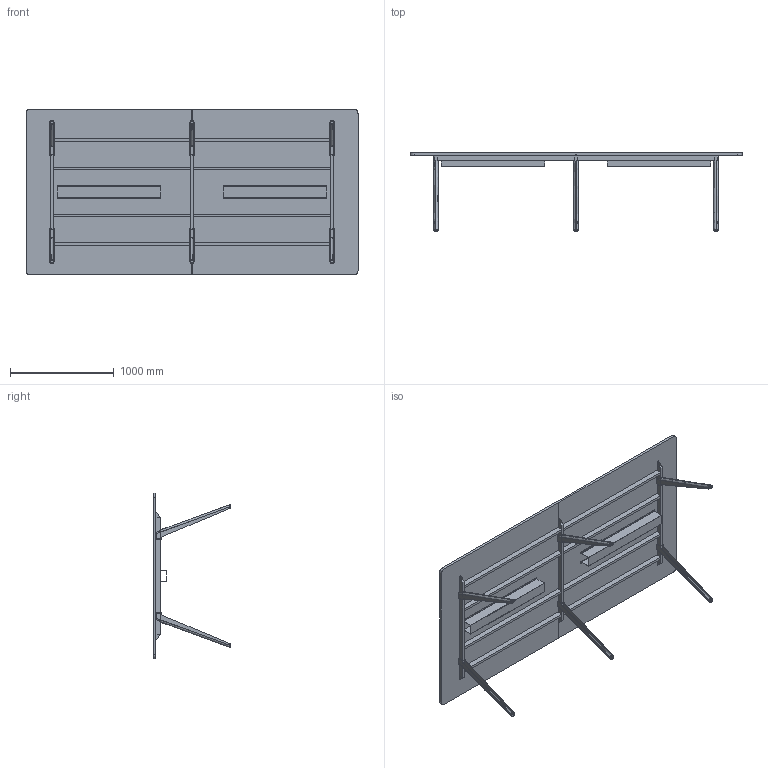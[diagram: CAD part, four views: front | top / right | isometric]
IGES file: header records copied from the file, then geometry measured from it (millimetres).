
Start section: SolidWorks IGES file using analytic representation for surfaces
Global section: file name: C:\Users\simone.cerana\OneDrive - Gruppo Tecno\Desktop\CHINA\DISEGNI DI SERIE\ASSIEMI LISTINO\HORIZON LISTINO\FULL OPTIONAL\HO3216MF.IGS; native system: SolidWorks 2024; preprocessor: SolidWorks 2024; author: simone.cerana; date: 260512.160309; units: millimetre
Bounding box: 3201 x 750.58 x 1600 mm (x, y, z)
Surface area: 14377044.8 mm2 (no closed solid volume)
Topology: 0 solids, 0 shells, 518 faces, 6250 edges, 6250 vertices
Faces by surface type: bspline 372, revolution 146
